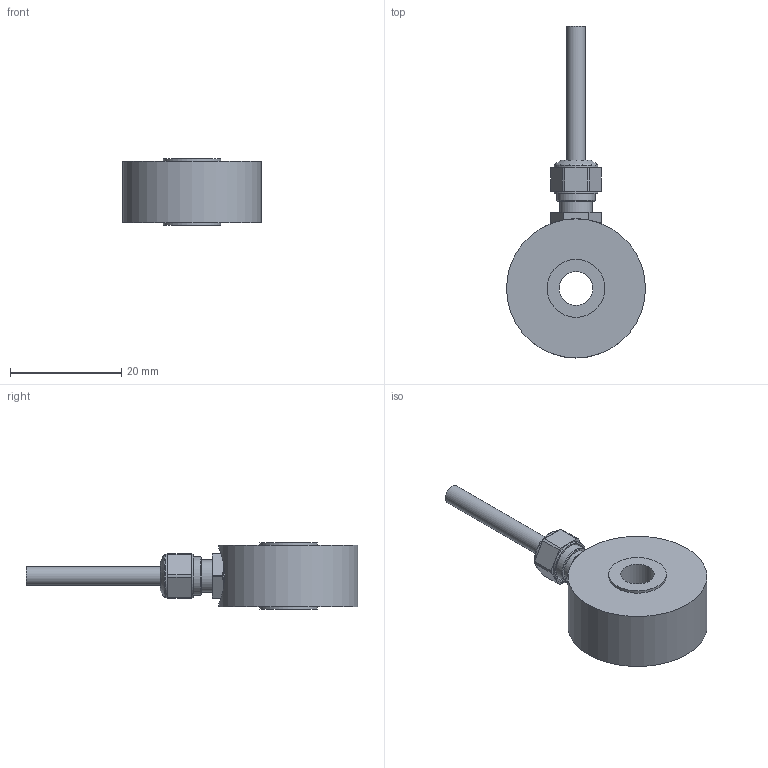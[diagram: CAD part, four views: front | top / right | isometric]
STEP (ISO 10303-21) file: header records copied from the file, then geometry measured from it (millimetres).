
FILE_DESCRIPTION(/* description */ (''),/* implementation_level */ '2;1');
FILE_NAME(/* name */ 'I:/New Datasheets/STEP Models/Pending models/CCG-12.5kN-003-000.step',/* time_stamp */ '2019-08-16T13:51:29+01:00',/* author */ (''),/* organization */ (''),/* preprocessor_version */ 'ST-DEVELOPER v18',/* originating_system */ 'Autodesk Translation Framework v8.6.0.1094',/* authorisation */ '');
FILE_SCHEMA (('AUTOMOTIVE_DESIGN { 1 0 10303 214 3 1 1 }'));
Length unit declared in the file: millimetre
Products named in the file (2): CCG-12.5kN-003-000 -; CCG-12.5kN-003-000
Assembly tree (1 placements, depth 2):
  CCG-12.5kN-003-000 -
    CCG-12.5kN-003-000
Bounding box: 25 x 59.68 x 12 mm (x, y, z)
Volume: 5720.7 mm3; surface area: 3258 mm2
Topology: 1 solids, 4 shells, 88 faces, 219 edges, 154 vertices
Faces by surface type: plane 35, cylinder 33, cone 12, torus 8
Full cylindrical faces by diameter (mm): 3.4 x2, 3.6 x1, 3.7 x1, 4.7 x1, 4.773 x1, 4.8 x2, 5.035 x2, 5.93 x1, 6.1 x1, 6.2 x1, 6.38 x1, 6.84 x1, 7.9 x2, 10 x1, 10.4 x2, 25 x1
Entity records: 2803 total; most frequent: CARTESIAN_POINT 522, DIRECTION 521, ORIENTED_EDGE 436, AXIS2_PLACEMENT_3D 226, EDGE_CURVE 218, VERTEX_POINT 154, CIRCLE 135, EDGE_LOOP 110
